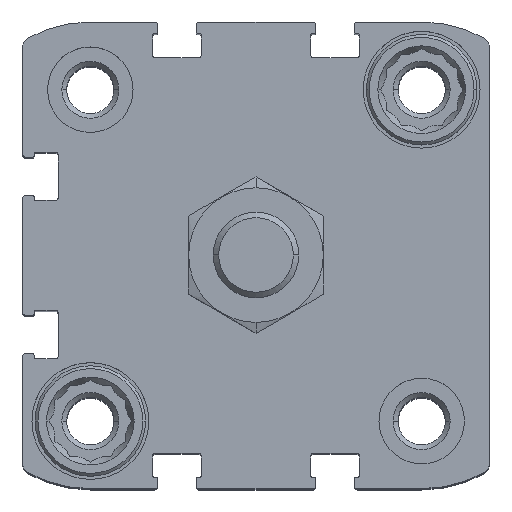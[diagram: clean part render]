
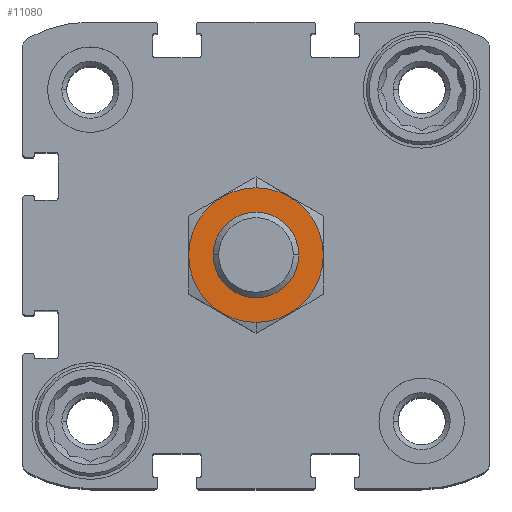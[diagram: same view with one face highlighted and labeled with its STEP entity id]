
A CAD part, top view. The second image highlights one B-rep face of the part: STEP entity #11080.
In plain terms, the highlighted planar face has unit normal (0, 0, 1).
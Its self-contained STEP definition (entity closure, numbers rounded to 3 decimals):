
#570 = CARTESIAN_POINT ( 'NONE',  ( 0., -9.45, 19.5 ) ) ;
#616 = FACE_BOUND ( 'NONE', #7859, .T. ) ;
#673 = DIRECTION ( 'NONE',  ( 0., 1., 0. ) ) ;
#711 = AXIS2_PLACEMENT_3D ( 'NONE', #7925, #1397, #11928 ) ;
#1207 = CARTESIAN_POINT ( 'NONE',  ( 0., 0., 19.5 ) ) ;
#1303 = DIRECTION ( 'NONE',  ( 0., 1., 0. ) ) ;
#1397 = DIRECTION ( 'NONE',  ( 0., 0., -1. ) ) ;
#2456 = EDGE_CURVE ( 'NONE', #13850, #15634, #15740, .T. ) ;
#2883 = DIRECTION ( 'NONE',  ( 0., 1., 0. ) ) ;
#3120 = CARTESIAN_POINT ( 'NONE',  ( 0., -6., 19.5 ) ) ;
#3752 = VERTEX_POINT ( 'NONE', #3120 ) ;
#3909 = DIRECTION ( 'NONE',  ( 0., 0., -1. ) ) ;
#4362 = DIRECTION ( 'NONE',  ( 0., 0., -1. ) ) ;
#4552 = CIRCLE ( 'NONE', #11235, 6. ) ;
#4566 = CIRCLE ( 'NONE', #16511, 6. ) ;
#6713 = CARTESIAN_POINT ( 'NONE',  ( 0., 0., 19.5 ) ) ;
#6986 = FACE_OUTER_BOUND ( 'NONE', #9644, .T. ) ;
#7859 = EDGE_LOOP ( 'NONE', ( #16096, #11913 ) ) ;
#7925 = CARTESIAN_POINT ( 'NONE',  ( 0., 0., 19.5 ) ) ;
#7995 = DIRECTION ( 'NONE',  ( 0., 1., 0. ) ) ;
#8445 = CARTESIAN_POINT ( 'NONE',  ( 0., 9.45, 19.5 ) ) ;
#9644 = EDGE_LOOP ( 'NONE', ( #14607, #13916 ) ) ;
#10888 = PLANE ( 'NONE',  #14911 ) ;
#10940 = CARTESIAN_POINT ( 'NONE',  ( 0., 0., 19.5 ) ) ;
#11080 = ADVANCED_FACE ( 'NONE', ( #6986, #616 ), #10888, .F. ) ;
#11235 = AXIS2_PLACEMENT_3D ( 'NONE', #1207, #3909, #7995 ) ;
#11282 = CIRCLE ( 'NONE', #711, 9.45 ) ;
#11457 = EDGE_CURVE ( 'NONE', #15634, #13850, #11282, .T. ) ;
#11913 = ORIENTED_EDGE ( 'NONE', *, *, #13115, .T. ) ;
#11928 = DIRECTION ( 'NONE',  ( 0., 1., 0. ) ) ;
#12284 = CARTESIAN_POINT ( 'NONE',  ( 0., 0., 19.5 ) ) ;
#12515 = DIRECTION ( 'NONE',  ( 0., 0., -1. ) ) ;
#12695 = AXIS2_PLACEMENT_3D ( 'NONE', #6713, #16246, #1303 ) ;
#12968 = EDGE_CURVE ( 'NONE', #3752, #17001, #4552, .T. ) ;
#13115 = EDGE_CURVE ( 'NONE', #17001, #3752, #4566, .T. ) ;
#13850 = VERTEX_POINT ( 'NONE', #8445 ) ;
#13916 = ORIENTED_EDGE ( 'NONE', *, *, #11457, .F. ) ;
#14607 = ORIENTED_EDGE ( 'NONE', *, *, #2456, .F. ) ;
#14911 = AXIS2_PLACEMENT_3D ( 'NONE', #12284, #4362, #2883 ) ;
#15634 = VERTEX_POINT ( 'NONE', #570 ) ;
#15740 = CIRCLE ( 'NONE', #12695, 9.45 ) ;
#16096 = ORIENTED_EDGE ( 'NONE', *, *, #12968, .T. ) ;
#16246 = DIRECTION ( 'NONE',  ( 0., 0., -1. ) ) ;
#16511 = AXIS2_PLACEMENT_3D ( 'NONE', #10940, #12515, #673 ) ;
#17001 = VERTEX_POINT ( 'NONE', #17158 ) ;
#17158 = CARTESIAN_POINT ( 'NONE',  ( 0., 6., 19.5 ) ) ;
